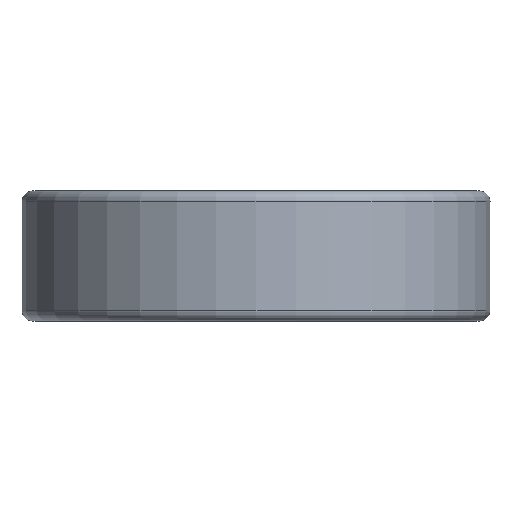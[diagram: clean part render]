
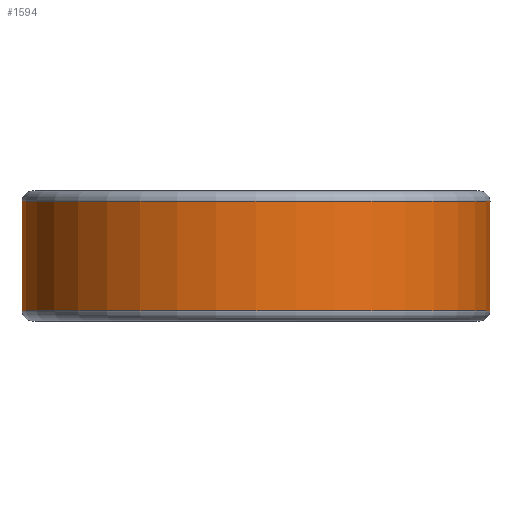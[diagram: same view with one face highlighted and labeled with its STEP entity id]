
A CAD part, left-side view. The second image highlights one B-rep face of the part: STEP entity #1594.
In plain terms, the highlighted cylindrical face has radius 27 mm (diameter 54 mm), a partial arc.
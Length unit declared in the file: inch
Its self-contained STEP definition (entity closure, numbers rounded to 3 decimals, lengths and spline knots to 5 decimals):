
#158=CARTESIAN_POINT('',(1.06253,-0.0313,
0.04724));
#168=DIRECTION('',(0.,0.,1.));
#169=VECTOR('',#168,0.49607);
#170=CARTESIAN_POINT('',(1.06253,-0.0313,
0.04724));
#171=LINE('',#170,#169);
#180=CARTESIAN_POINT('',(1.06253,-0.0313,
0.54331));
#242=CARTESIAN_POINT('',(1.06253,0.0313,0.54331));
#252=DIRECTION('',(0.,0.,-1.));
#253=VECTOR('',#252,0.49607);
#254=CARTESIAN_POINT('',(1.06253,0.0313,0.54331));
#255=LINE('',#254,#253);
#264=CARTESIAN_POINT('',(1.06253,0.0313,0.04724));
#461=CARTESIAN_POINT('',(0.,0.,0.54331));
#462=DIRECTION('',(0.,0.,1.));
#463=DIRECTION('',(1.,0.029,0.));
#464=AXIS2_PLACEMENT_3D('',#461,#462,#463);
#466=CARTESIAN_POINT('',(0.846,-0.64361,0.19371));
#467=CARTESIAN_POINT('',(0.83782,-0.65436,
0.19371));
#468=CARTESIAN_POINT('',(0.822,-0.67431,
0.19566));
#469=CARTESIAN_POINT('',(0.8001,-0.70009,
0.20371));
#470=CARTESIAN_POINT('',(0.78107,-0.72118,
0.21613));
#471=CARTESIAN_POINT('',(0.76569,-0.73742,
0.23187));
#472=CARTESIAN_POINT('',(0.75447,-0.74885,
0.2497));
#473=CARTESIAN_POINT('',(0.74736,-0.75592,
0.26851));
#474=CARTESIAN_POINT('',(0.74405,-0.75917,
0.28809));
#475=CARTESIAN_POINT('',(0.74459,-0.75865,
0.30778));
#476=CARTESIAN_POINT('',(0.74884,-0.75447,
0.32696));
#477=CARTESIAN_POINT('',(0.75678,-0.74652,
0.34516));
#478=CARTESIAN_POINT('',(0.76841,-0.73458,
0.36189));
#479=CARTESIAN_POINT('',(0.78357,-0.71846,
0.37631));
#480=CARTESIAN_POINT('',(0.80189,-0.69802,
0.38762));
#481=CARTESIAN_POINT('',(0.82284,-0.67327,
0.39501));
#482=CARTESIAN_POINT('',(0.8381,-0.654,
0.39684));
#483=CARTESIAN_POINT('',(0.846,-0.64361,0.39684));
#485=CARTESIAN_POINT('',(0.846,-0.64361,0.39684));
#486=CARTESIAN_POINT('',(0.85436,-0.63263,
0.39684));
#487=CARTESIAN_POINT('',(0.86978,-0.61147,
0.39484));
#488=CARTESIAN_POINT('',(0.88943,-0.58244,
0.38779));
#489=CARTESIAN_POINT('',(0.90584,-0.55649,
0.37803));
#490=CARTESIAN_POINT('',(0.91927,-0.53393,
0.36631));
#491=CARTESIAN_POINT('',(0.93007,-0.51484,
0.3531));
#492=CARTESIAN_POINT('',(0.93847,-0.4993,
0.3384));
#493=CARTESIAN_POINT('',(0.94445,-0.48785,
0.32231));
#494=CARTESIAN_POINT('',(0.9479,-0.48108,
0.30316));
#495=CARTESIAN_POINT('',(0.94744,-0.482,
0.2832));
#496=CARTESIAN_POINT('',(0.9435,-0.48969,
0.26511));
#497=CARTESIAN_POINT('',(0.93731,-0.50148,
0.24982));
#498=CARTESIAN_POINT('',(0.9289,-0.51694,
0.23582));
#499=CARTESIAN_POINT('',(0.91816,-0.53583,
0.22316));
#500=CARTESIAN_POINT('',(0.90485,-0.55808,
0.21182));
#501=CARTESIAN_POINT('',(0.88864,-0.58363,
0.20238));
#502=CARTESIAN_POINT('',(0.86929,-0.61215,
0.19566));
#503=CARTESIAN_POINT('',(0.85418,-0.63286,
0.19371));
#504=CARTESIAN_POINT('',(0.846,-0.64361,0.19371));
#506=DIRECTION('',(0.,0.,1.));
#507=VECTOR('',#506,0.03444);
#508=CARTESIAN_POINT('',(1.03139,0.25725,0.19466));
#509=LINE('',#508,#507);
#510=CARTESIAN_POINT('',(1.03139,0.25725,0.19466));
#511=CARTESIAN_POINT('',(1.02315,0.29029,0.17948));
#512=CARTESIAN_POINT('',(1.00392,0.35384,0.15275));
#513=CARTESIAN_POINT('',(0.96881,0.44054,
0.12175));
#514=CARTESIAN_POINT('',(0.92934,0.51829,
0.09981));
#515=CARTESIAN_POINT('',(0.88755,0.58662,
0.087));
#516=CARTESIAN_POINT('',(0.8597,0.6256,
0.08434));
#517=CARTESIAN_POINT('',(0.846,0.64361,0.08434));
#519=CARTESIAN_POINT('',(0.846,0.64361,0.50621));
#520=CARTESIAN_POINT('',(0.83186,0.6622,
0.50621));
#521=CARTESIAN_POINT('',(0.80389,0.69643,
0.50337));
#522=CARTESIAN_POINT('',(0.76402,0.73975,
0.4911));
#523=CARTESIAN_POINT('',(0.7277,0.77532,
0.4715));
#524=CARTESIAN_POINT('',(0.69651,0.8033,
0.44587));
#525=CARTESIAN_POINT('',(0.6712,0.82445,
0.41548));
#526=CARTESIAN_POINT('',(0.65234,0.83936,
0.38171));
#527=CARTESIAN_POINT('',(0.64014,0.84865,
0.34606));
#528=CARTESIAN_POINT('',(0.63446,0.85288,
0.30926));
#529=CARTESIAN_POINT('',(0.63525,0.8523,
0.27252));
#530=CARTESIAN_POINT('',(0.64223,0.84708,
0.23687));
#531=CARTESIAN_POINT('',(0.65511,0.8372,
0.20312));
#532=CARTESIAN_POINT('',(0.67378,0.82233,
0.17161));
#533=CARTESIAN_POINT('',(0.69801,0.80197,
0.14344));
#534=CARTESIAN_POINT('',(0.72772,0.77526,
0.11913));
#535=CARTESIAN_POINT('',(0.76292,0.74085,
0.09999));
#536=CARTESIAN_POINT('',(0.80257,0.69797,
0.0874));
#537=CARTESIAN_POINT('',(0.83132,0.6629,
0.08434));
#538=CARTESIAN_POINT('',(0.846,0.64361,0.08434));
#540=CARTESIAN_POINT('',(0.846,0.64361,0.50621));
#541=CARTESIAN_POINT('',(0.8597,0.6256,
0.50621));
#542=CARTESIAN_POINT('',(0.88755,0.58662,
0.50355));
#543=CARTESIAN_POINT('',(0.92934,0.51829,
0.49074));
#544=CARTESIAN_POINT('',(0.96881,0.44054,
0.4688));
#545=CARTESIAN_POINT('',(1.00392,0.35384,0.4378));
#546=CARTESIAN_POINT('',(1.02315,0.29029,0.41108));
#547=CARTESIAN_POINT('',(1.03139,0.25725,0.39589));
#549=DIRECTION('',(0.,0.,1.));
#550=VECTOR('',#549,0.03444);
#551=CARTESIAN_POINT('',(1.03139,0.25725,0.36145));
#552=LINE('',#551,#550);
#553=DIRECTION('',(0.,0.,-1.));
#554=VECTOR('',#553,0.13235);
#555=CARTESIAN_POINT('',(1.03139,0.25725,0.36145));
#556=LINE('',#555,#554);
#565=CARTESIAN_POINT('',(0.,0.,0.04724));
#566=DIRECTION('',(0.,0.,-1.));
#567=DIRECTION('',(1.,-0.029,0.));
#568=AXIS2_PLACEMENT_3D('',#565,#566,#567);
#823=VERTEX_POINT('',#158);
#824=VERTEX_POINT('',#180);
#839=VERTEX_POINT('',#242);
#840=VERTEX_POINT('',#264);
#880=VERTEX_POINT('',#466);
#881=VERTEX_POINT('',#483);
#882=CARTESIAN_POINT('',(1.03139,0.25725,0.19466));
#883=CARTESIAN_POINT('',(1.03139,0.25725,0.2291));
#884=VERTEX_POINT('',#882);
#885=VERTEX_POINT('',#883);
#886=VERTEX_POINT('',#519);
#887=VERTEX_POINT('',#538);
#888=CARTESIAN_POINT('',(1.03139,0.25725,0.36145));
#889=CARTESIAN_POINT('',(1.03139,0.25725,0.39589));
#890=VERTEX_POINT('',#888);
#891=VERTEX_POINT('',#889);
#1562=CARTESIAN_POINT('',(0.,0.,0.59055));
#1563=DIRECTION('',(0.,0.,-1.));
#1564=DIRECTION('',(-1.,0.,0.));
#1565=AXIS2_PLACEMENT_3D('',#1562,#1563,#1564);
#1566=CYLINDRICAL_SURFACE('',#1565,1.06299);
#1567=ORIENTED_EDGE('',*,*,#1546,.T.);
#1568=ORIENTED_EDGE('',*,*,#1080,.F.);
#1570=ORIENTED_EDGE('',*,*,#1569,.T.);
#1571=ORIENTED_EDGE('',*,*,#1161,.F.);
#1572=EDGE_LOOP('',(#1567,#1568,#1570,#1571));
#1573=FACE_OUTER_BOUND('',#1572,.F.);
#1575=ORIENTED_EDGE('',*,*,#1574,.F.);
#1577=ORIENTED_EDGE('',*,*,#1576,.F.);
#1578=EDGE_LOOP('',(#1575,#1577));
#1579=FACE_BOUND('',#1578,.F.);
#1581=ORIENTED_EDGE('',*,*,#1580,.F.);
#1583=ORIENTED_EDGE('',*,*,#1582,.T.);
#1585=ORIENTED_EDGE('',*,*,#1584,.F.);
#1587=ORIENTED_EDGE('',*,*,#1586,.T.);
#1589=ORIENTED_EDGE('',*,*,#1588,.F.);
#1591=ORIENTED_EDGE('',*,*,#1590,.T.);
#1592=EDGE_LOOP('',(#1581,#1583,#1585,#1587,#1589,#1591));
#1593=FACE_BOUND('',#1592,.F.);
#465=CIRCLE('',#464,1.06299);
#484=B_SPLINE_CURVE_WITH_KNOTS('',3,(#466,#467,#468,#469,#470,#471,#472,#473,
#474,#475,#476,#477,#478,#479,#480,#481,#482,#483),.UNSPECIFIED.,.F.,.F.,(4,1,1,
1,1,1,1,1,1,1,1,1,1,1,1,4),(0.,0.06667,0.13333,0.2,
0.26667,0.33333,0.4,0.46667,0.53333,
0.6,0.66667,0.73333,0.8,0.86667,
0.93333,1.),.UNSPECIFIED.);
#505=B_SPLINE_CURVE_WITH_KNOTS('',3,(#485,#486,#487,#488,#489,#490,#491,#492,
#493,#494,#495,#496,#497,#498,#499,#500,#501,#502,#503,#504),.UNSPECIFIED.,.F.,
.F.,(4,1,1,1,1,1,1,1,1,1,1,1,1,1,1,1,1,4),(0.,0.05882,
0.11765,0.17647,0.23529,0.29412,
0.35294,0.41176,0.47059,0.52941,
0.58824,0.64706,0.70588,0.76471,
0.82353,0.88235,0.94118,1.),.UNSPECIFIED.);
#518=B_SPLINE_CURVE_WITH_KNOTS('',3,(#510,#511,#512,#513,#514,#515,#516,#517),
.UNSPECIFIED.,.F.,.F.,(4,1,1,1,1,4),(0.,0.2,0.4,0.6,0.8,1.),
.UNSPECIFIED.);
#539=B_SPLINE_CURVE_WITH_KNOTS('',3,(#519,#520,#521,#522,#523,#524,#525,#526,
#527,#528,#529,#530,#531,#532,#533,#534,#535,#536,#537,#538),.UNSPECIFIED.,.F.,
.F.,(4,1,1,1,1,1,1,1,1,1,1,1,1,1,1,1,1,4),(0.,0.05882,
0.11765,0.17647,0.23529,0.29412,
0.35294,0.41176,0.47059,0.52941,
0.58824,0.64706,0.70588,0.76471,
0.82353,0.88235,0.94118,1.),.UNSPECIFIED.);
#548=B_SPLINE_CURVE_WITH_KNOTS('',3,(#540,#541,#542,#543,#544,#545,#546,#547),
.UNSPECIFIED.,.F.,.F.,(4,1,1,1,1,4),(0.,0.2,0.4,0.6,0.8,1.),
.UNSPECIFIED.);
#569=CIRCLE('',#568,1.06299);
#1080=EDGE_CURVE('',#823,#824,#171,.T.);
#1161=EDGE_CURVE('',#839,#840,#255,.T.);
#1546=EDGE_CURVE('',#839,#824,#465,.T.);
#1569=EDGE_CURVE('',#823,#840,#569,.T.);
#1574=EDGE_CURVE('',#880,#881,#484,.T.);
#1576=EDGE_CURVE('',#881,#880,#505,.T.);
#1580=EDGE_CURVE('',#884,#885,#509,.T.);
#1582=EDGE_CURVE('',#884,#887,#518,.T.);
#1584=EDGE_CURVE('',#886,#887,#539,.T.);
#1586=EDGE_CURVE('',#886,#891,#548,.T.);
#1588=EDGE_CURVE('',#890,#891,#552,.T.);
#1590=EDGE_CURVE('',#890,#885,#556,.T.);
#1594=ADVANCED_FACE('',(#1573,#1579,#1593),#1566,.T.);
